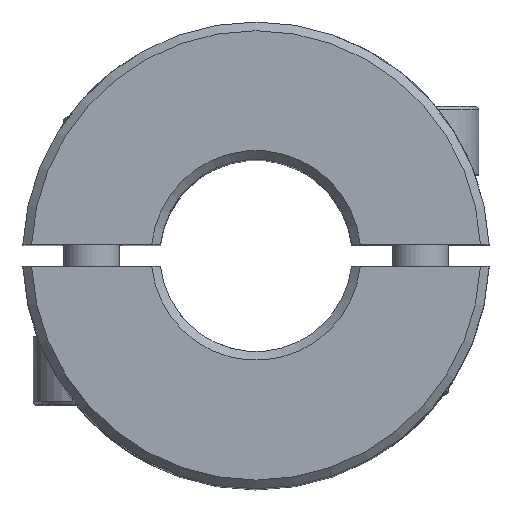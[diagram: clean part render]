
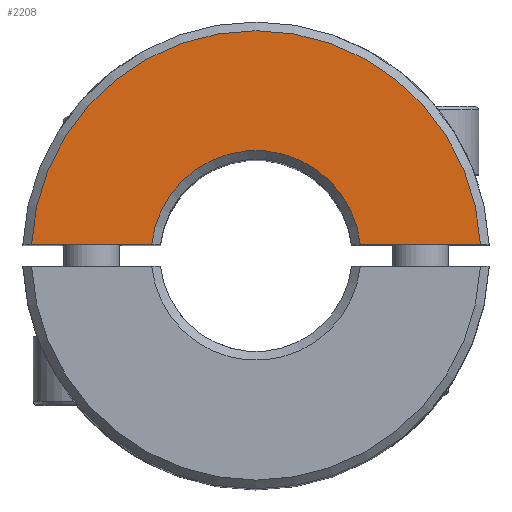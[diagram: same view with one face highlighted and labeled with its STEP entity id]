
A CAD part, top view. The second image highlights one B-rep face of the part: STEP entity #2208.
In plain terms, the highlighted planar face has unit normal (0, 0, 1).
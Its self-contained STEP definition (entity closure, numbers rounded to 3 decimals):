
#464=DIRECTION('',(-1.,0.,0.));
#465=VECTOR('',#464,8.752);
#466=CARTESIAN_POINT('',(16.345,0.8,25.));
#467=LINE('',#466,#465);
#495=CARTESIAN_POINT('',(0.,0.,25.));
#496=DIRECTION('',(0.,0.,-1.));
#497=DIRECTION('',(-0.994,0.105,0.));
#498=AXIS2_PLACEMENT_3D('',#495,#496,#497);
#522=DIRECTION('',(-1.,0.,0.));
#523=VECTOR('',#522,8.752);
#524=CARTESIAN_POINT('',(-7.593,0.8,25.));
#525=LINE('',#524,#523);
#526=CARTESIAN_POINT('',(-7.593,0.8,25.));
#595=CARTESIAN_POINT('',(0.,0.,25.));
#596=DIRECTION('',(0.,0.,1.));
#597=DIRECTION('',(0.999,0.049,0.));
#598=AXIS2_PLACEMENT_3D('',#595,#596,#597);
#1652=CARTESIAN_POINT('',(16.345,0.8,25.));
#1653=CARTESIAN_POINT('',(7.593,0.8,25.));
#1654=VERTEX_POINT('',#1652);
#1655=VERTEX_POINT('',#1653);
#1664=VERTEX_POINT('',#526);
#1669=CARTESIAN_POINT('',(-16.345,0.8,25.));
#1670=VERTEX_POINT('',#1669);
#2197=CARTESIAN_POINT('',(0.,0.,25.));
#2198=DIRECTION('',(0.,0.,1.));
#2199=DIRECTION('',(1.,0.,0.));
#2200=AXIS2_PLACEMENT_3D('',#2197,#2198,#2199);
#2201=PLANE('',#2200);
#2202=ORIENTED_EDGE('',*,*,#2053,.F.);
#2203=ORIENTED_EDGE('',*,*,#2080,.T.);
#2204=ORIENTED_EDGE('',*,*,#2184,.F.);
#2205=ORIENTED_EDGE('',*,*,#2018,.T.);
#2206=EDGE_LOOP('',(#2202,#2203,#2204,#2205));
#2207=FACE_OUTER_BOUND('',#2206,.F.);
#499=CIRCLE('',#498,7.635);
#599=CIRCLE('',#598,16.365);
#2018=EDGE_CURVE('',#1654,#1655,#467,.T.);
#2053=EDGE_CURVE('',#1664,#1655,#499,.T.);
#2080=EDGE_CURVE('',#1664,#1670,#525,.T.);
#2184=EDGE_CURVE('',#1654,#1670,#599,.T.);
#2208=ADVANCED_FACE('',(#2207),#2201,.T.);
